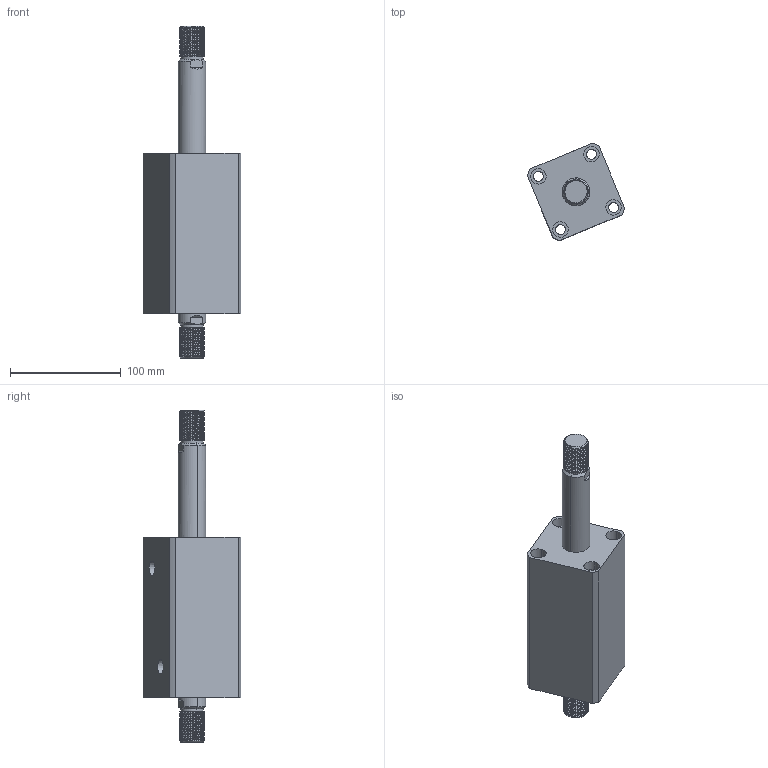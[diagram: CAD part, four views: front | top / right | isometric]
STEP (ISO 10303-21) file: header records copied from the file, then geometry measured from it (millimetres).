
FILE_DESCRIPTION (( 'STEP AP214' ), '1' );
FILE_NAME ('chtb-sw40x75w_asm.STEP', '2018-06-08T10:31:51', ( 'Windows' ), ( 'Microsoft' ), 'SwSTEP 2.0', 'SolidWorks 2015', '' );
FILE_SCHEMA (( 'AUTOMOTIVE_DESIGN' ));
Length unit declared in the file: millimetre
Products named in the file (4): CHTB-SW40X75NHSG; CHTB-SW40X75NBT; CHTB-SD40QG; chtb-sw40x75w_asm
Assembly tree (3 placements, depth 2):
  chtb-sw40x75w_asm
    CHTB-SD40QG
    CHTB-SW40X75NBT
    CHTB-SW40X75NHSG
Bounding box: 88.11 x 88.11 x 300 mm (x, y, z)
Volume: 666999 mm3; surface area: 122608.2 mm2
Topology: 3 solids, 3 shells, 254 faces, 680 edges, 452 vertices
Faces by surface type: cylinder 160, plane 46, bspline 18, cone 18, torus 12
Entity records: 17389 total; most frequent: CARTESIAN_POINT 11402, ORIENTED_EDGE 1348, DIRECTION 1094, EDGE_CURVE 674, VERTEX_POINT 452, AXIS2_PLACEMENT_3D 443, EDGE_LOOP 296, ADVANCED_FACE 254
